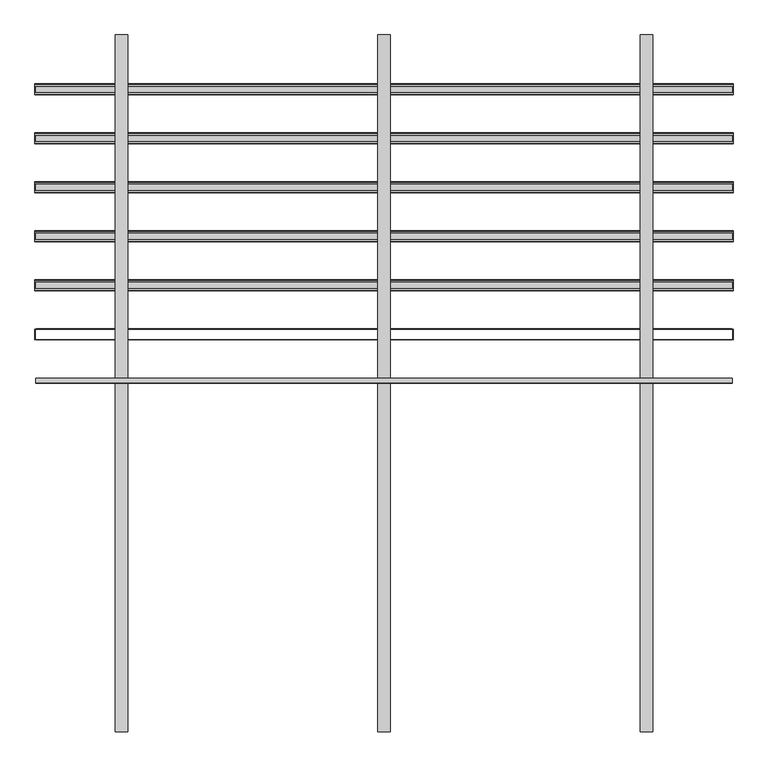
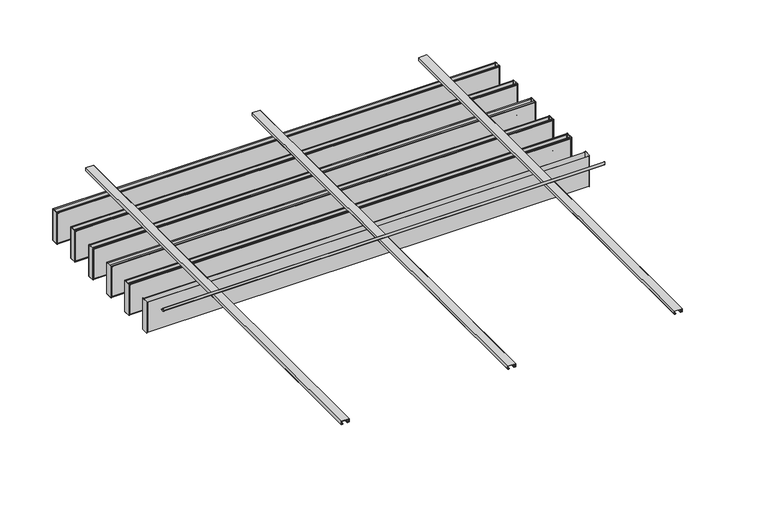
"""IFC4 building model written with IfcOpenShell, lengths in millimetres: proxy geometry, durlum_POLYLAM_KS : durlum_POLYLAM-KS/-S 63."""

from ifc_helpers import new_model, si_unit, point, frame, frame_2d, origin, place, context, project, spatial, polyline, circle_curve, trimmed, segment, composite_curve, outline, extrude, source, transform, mapped, element, save
from ifc_brep_helpers import plane_surface, cylinder_surface, advanced_brep


def generic_models_96af2689(model_context):
    return source(origin(), model_context, "Body", "SolidModel", [
        extrude(outline(polyline([(2027.0, 20.5), (2020.0, 20.5), (2020.0, 35.0), (2050.0, 35.0), (2050.0, -35.0), (2020.0, -35.0), (2020.0, -20.5), (2027.0, -20.5), (2027.0, -22.0), (2021.5, -22.0), (2021.5, -33.5), (2048.5, -33.5), (2048.5, 33.5), (2021.5, 33.5), (2021.5, 22.0), (2027.0, 22.0), (2027.0, 20.5)])), frame((0.0, -1991.5, 0.0), z_axis=(0.0, 1.0, 0.0), x_axis=(0.0, 0.0, 1.0)), (0.0, 0.0, 1.0), 3983.0),
        extrude(outline(polyline([(2027.0, -1479.5), (2020.0, -1479.5), (2020.0, -1465.0), (2050.0, -1465.0), (2050.0, -1535.0), (2020.0, -1535.0), (2020.0, -1520.5), (2027.0, -1520.5), (2027.0, -1522.0), (2021.5, -1522.0), (2021.5, -1533.5), (2048.5, -1533.5), (2048.5, -1466.5), (2021.5, -1466.5), (2021.5, -1478.0), (2027.0, -1478.0), (2027.0, -1479.5)])), frame((0.0, -1991.5, 0.0), z_axis=(0.0, 1.0, 0.0), x_axis=(0.0, 0.0, 1.0)), (0.0, 0.0, 1.0), 3983.0),
        extrude(outline(polyline([(2027.0, 1520.5), (2020.0, 1520.5), (2020.0, 1535.0), (2050.0, 1535.0), (2050.0, 1465.0), (2020.0, 1465.0), (2020.0, 1479.5), (2027.0, 1479.5), (2027.0, 1478.0), (2021.5, 1478.0), (2021.5, 1466.5), (2048.5, 1466.5), (2048.5, 1533.5), (2021.5, 1533.5), (2021.5, 1522.0), (2027.0, 1522.0), (2027.0, 1520.5)])), frame((0.0, -1991.5, 0.0), z_axis=(0.0, 1.0, 0.0), x_axis=(0.0, 0.0, 1.0)), (0.0, 0.0, 1.0), 3983.0),
        extrude(outline(composite_curve([segment(polyline([(2.0, 2079.9), (2.0, 2054.0)]), True, "CONTINUOUS"), segment(trimmed(circle_curve(frame_2d((4.0, 2054.0)), 2.0), [point((2.0, 2054.0))], [point((4.0, 2052.0))], True, "CARTESIAN"), True, "CONTINUOUS"), segment(polyline([(4.0, 2052.0), (29.9, 2052.0), (29.9, 2050.0), (4.0, 2050.0)]), True, "CONTINUOUS"), segment(trimmed(circle_curve(frame_2d((4.0, 2054.0)), 4.0), [point((4.0, 2050.0))], [point((0.0, 2054.0))], False, "CARTESIAN"), True, "CONTINUOUS"), segment(polyline([(0.0, 2054.0), (0.0, 2079.9), (2.0, 2079.9)]), True, "CONTINUOUS")], self_intersect=False)), frame((-1990.0, 0.0, 0.0), z_axis=(1.0, 0.0, 0.0), x_axis=(0.0, 1.0, 0.0)), (0.0, 0.0, 1.0), 3980.0),
        extrude(outline(polyline([(1986.5, 1710.5), (-1986.5, 1710.5), (-1986.5, 1711.5), (1986.5, 1711.5), (1986.5, 1710.5)])), frame((0.0, 0.0, 1699.4), z_axis=(0.0, 0.0, 1.0), x_axis=(1.0, 0.0, 0.0)), (0.0, 0.0, 1.0), 283.0),
        extrude(outline(polyline([(1986.5, 1648.5), (-1986.5, 1648.5), (-1986.5, 1649.5), (1986.5, 1649.5), (1986.5, 1648.5)])), frame((0.0, 0.0, 1699.4), z_axis=(0.0, 0.0, 1.0), x_axis=(1.0, 0.0, 0.0)), (0.0, 0.0, 1.0), 283.0),
        extrude(outline(polyline([(1993.0, 1710.5), (1995.0, 1710.5), (1995.0, 1649.5), (1993.0, 1649.5), (1993.0, 1710.5)])), frame((0.0, 0.0, 1691.9), z_axis=(0.0, 0.0, 1.0), x_axis=(1.0, 0.0, 0.0)), (0.0, 0.0, 1.0), 298.1604454),
        extrude(outline(polyline([(-1995.0, 1710.5), (-1993.0, 1710.5), (-1993.0, 1649.5), (-1995.0, 1649.5), (-1995.0, 1710.5)])), frame((0.0, 0.0, 1691.9), z_axis=(0.0, 0.0, 1.0), x_axis=(1.0, 0.0, 0.0)), (0.0, 0.0, 1.0), 298.1604454),
        advanced_brep(
        [(1995.0, 1709.5, 1990.9), (1995.0, 1699.5, 1990.9), (1995.0, 1699.5, 1990.0604454), (1995.0, 1710.5, 1990.0604454), (1995.0, 1710.5, 1691.9), (1995.0, 1649.5, 1691.9), (1995.0, 1649.5, 1989.8155735), (1995.0, 1660.5, 1989.8155735), (1995.0, 1660.5, 1990.9), (1995.0, 1650.5, 1990.9), (1995.0, 1648.5, 1988.9), (1995.0, 1648.5, 1692.9), (1995.0, 1650.5, 1690.9), (1995.0, 1709.5, 1690.9), (1995.0, 1711.5, 1692.9), (1995.0, 1711.5, 1988.9), (-1995.0, 1709.5, 1990.9), (-1995.0, 1711.5, 1988.9), (-1995.0, 1711.5, 1692.9), (-1995.0, 1709.5, 1690.9), (-1995.0, 1650.5, 1690.9), (-1995.0, 1648.5, 1692.9), (-1995.0, 1648.5, 1988.9), (-1995.0, 1650.5, 1990.9), (-1995.0, 1660.5, 1990.9), (-1995.0, 1660.5, 1989.8155735), (-1995.0, 1649.5, 1989.8155735), (-1995.0, 1649.5, 1691.9), (-1995.0, 1710.5, 1691.9), (-1995.0, 1710.5, 1990.0604454), (-1995.0, 1699.5, 1990.0604454), (-1995.0, 1699.5, 1990.9), (-1986.5, 1710.5, 1982.4), (1986.5, 1710.5, 1982.4), (1986.5, 1710.5, 1699.4), (-1986.5, 1710.5, 1699.4), (1986.5, 1649.5, 1982.4), (-1986.5, 1649.5, 1982.4), (-1986.5, 1649.5, 1699.4), (1986.5, 1649.5, 1699.4), (-1986.5, 1648.5, 1982.4), (1986.5, 1648.5, 1982.4), (1986.5, 1648.5, 1699.4), (-1986.5, 1648.5, 1699.4), (1986.5, 1711.5, 1982.4), (-1986.5, 1711.5, 1982.4), (-1986.5, 1711.5, 1699.4), (1986.5, 1711.5, 1699.4)],
        [
            (0, 1),
            (1, 2),
            (2, 3),
            (3, 4),
            (4, 5),
            (5, 6),
            (6, 7),
            (7, 8),
            (8, 9),
            (9, 10, circle_curve(frame((1995.0, 1650.5, 1988.9), z_axis=(1.0, 0.0, 0.0), x_axis=(0.0, 1.0, 0.0)), 2.0)),
            (10, 11),
            (11, 12, circle_curve(frame((1995.0, 1650.5, 1692.9), z_axis=(1.0, 0.0, 0.0), x_axis=(0.0, 1.0, 0.0)), 2.0)),
            (12, 13),
            (13, 14, circle_curve(frame((1995.0, 1709.5, 1692.9), z_axis=(1.0, 0.0, 0.0), x_axis=(0.0, 1.0, 0.0)), 2.0)),
            (14, 15),
            (15, 0, circle_curve(frame((1995.0, 1709.5, 1988.9), z_axis=(1.0, 0.0, 0.0), x_axis=(0.0, 1.0, 0.0)), 2.0)),
            (16, 17, circle_curve(frame((-1995.0, 1709.5, 1988.9), z_axis=(-1.0, 0.0, 0.0), x_axis=(0.0, 1.0, 0.0)), 2.0)),
            (17, 18),
            (18, 19, circle_curve(frame((-1995.0, 1709.5, 1692.9), z_axis=(-1.0, 0.0, 0.0), x_axis=(0.0, 1.0, 0.0)), 2.0)),
            (19, 20),
            (20, 21, circle_curve(frame((-1995.0, 1650.5, 1692.9), z_axis=(-1.0, 0.0, 0.0), x_axis=(0.0, 1.0, 0.0)), 2.0)),
            (21, 22),
            (22, 23, circle_curve(frame((-1995.0, 1650.5, 1988.9), z_axis=(-1.0, 0.0, 0.0), x_axis=(0.0, 1.0, 0.0)), 2.0)),
            (23, 24),
            (24, 25),
            (25, 26),
            (26, 27),
            (27, 28),
            (28, 29),
            (29, 30),
            (30, 31),
            (31, 16),
            (0, 16),
            (31, 1),
            (30, 2),
            (29, 3),
            (28, 4),
            (32, 33),
            (33, 34),
            (34, 35),
            (35, 32),
            (27, 5),
            (26, 6),
            (36, 37),
            (37, 38),
            (38, 39),
            (39, 36),
            (25, 7),
            (24, 8),
            (23, 9),
            (10, 22),
            (21, 11),
            (40, 41),
            (41, 42),
            (42, 43),
            (43, 40),
            (12, 20),
            (19, 13),
            (14, 18),
            (17, 15),
            (44, 45),
            (45, 46),
            (46, 47),
            (47, 44),
            (44, 33),
            (32, 45),
            (36, 41),
            (40, 37),
            (35, 46),
            (43, 38),
            (34, 47),
            (42, 39),
        ],
        [
            plane_surface(frame((1995.0, 1699.5, 1990.9), z_axis=(1.0, 0.0, 0.0), x_axis=(0.0, -1.0, 0.0))),
            plane_surface(frame((-1995.0, 1699.5, 1990.9), z_axis=(-1.0, 0.0, 0.0), x_axis=(0.0, 1.0, 0.0))),
            plane_surface(frame((1995.0, 1709.5, 1990.9), z_axis=(0.0, 0.0, 1.0), x_axis=(-1.0, 0.0, 0.0))),
            plane_surface(frame((1995.0, 1699.5, 1990.9), z_axis=(0.0, -1.0, 0.0), x_axis=(-1.0, 0.0, 0.0))),
            plane_surface(frame((1995.0, 1699.5, 1990.0604454), z_axis=(0.0, 0.0, -1.0), x_axis=(-1.0, 0.0, 0.0))),
            plane_surface(frame((1995.0, 1710.5, 1990.0604454), z_axis=(0.0, -1.0, 0.0), x_axis=(-1.0, 0.0, 0.0))),
            plane_surface(frame((1995.0, 1710.5, 1691.9), z_axis=(0.0, 0.0, 1.0), x_axis=(-1.0, 0.0, 0.0))),
            plane_surface(frame((1995.0, 1649.5, 1691.9), z_axis=(0.0, 1.0, 0.0), x_axis=(-1.0, 0.0, 0.0))),
            plane_surface(frame((1995.0, 1649.5, 1989.8155735), z_axis=(0.0, 0.0, -1.0), x_axis=(-1.0, 0.0, 0.0))),
            plane_surface(frame((1995.0, 1660.5, 1989.8155735), z_axis=(0.0, 1.0, 0.0), x_axis=(-1.0, 0.0, 0.0))),
            plane_surface(frame((1995.0, 1660.5, 1990.9), z_axis=(0.0, 0.0, 1.0), x_axis=(-1.0, 0.0, 0.0))),
            plane_surface(frame((1995.0, 1648.5, 1988.9), z_axis=(0.0, -1.0, 0.0), x_axis=(-1.0, 0.0, 0.0))),
            plane_surface(frame((1995.0, 1650.5, 1690.9), z_axis=(0.0, 0.0, -1.0), x_axis=(-1.0, 0.0, 0.0))),
            plane_surface(frame((1995.0, 1711.5, 1692.9), z_axis=(0.0, 1.0, 0.0), x_axis=(-1.0, 0.0, 0.0))),
            cylinder_surface(frame((-1995.0, 1650.5, 1988.9), z_axis=(1.0, 0.0, 0.0), x_axis=(0.0, 1.0, 0.0)), 2.0),
            cylinder_surface(frame((-1995.0, 1650.5, 1692.9), z_axis=(1.0, 0.0, 0.0), x_axis=(0.0, 1.0, 0.0)), 2.0),
            cylinder_surface(frame((-1995.0, 1709.5, 1692.9), z_axis=(1.0, 0.0, 0.0), x_axis=(0.0, 1.0, 0.0)), 2.0),
            cylinder_surface(frame((-1995.0, 1709.5, 1988.9), z_axis=(1.0, 0.0, 0.0), x_axis=(0.0, 1.0, 0.0)), 2.0),
            plane_surface(frame((1986.5, 1648.5, 1982.4), z_axis=(0.0, 0.0, -1.0), x_axis=(0.0, 1.0, 0.0))),
            plane_surface(frame((-1986.5, 1648.5, 1982.4), z_axis=(1.0, 0.0, 0.0), x_axis=(0.0, 1.0, 0.0))),
            plane_surface(frame((-1986.5, 1648.5, 1699.4), z_axis=(0.0, 0.0, 1.0), x_axis=(0.0, 1.0, 0.0))),
            plane_surface(frame((1986.5, 1648.5, 1699.4), z_axis=(-1.0, 0.0, 0.0), x_axis=(0.0, 1.0, 0.0))),
        ],
        [
            (0, [[1, 2, 3, 4, 5, 6, 7, 8, 9, 10, 11, 12, 13, 14, 15, 16]]),
            (1, [[17, 18, 19, 20, 21, 22, 23, 24, 25, 26, 27, 28, 29, 30, 31, 32]]),
            (2, [[-1, 33, -32, 34]]),
            (3, [[-2, -34, -31, 35]]),
            (4, [[-3, -35, -30, 36]]),
            (5, [[-4, -36, -29, 37], [38, 39, 40, 41]]),
            (6, [[-5, -37, -28, 42]]),
            (7, [[-6, -42, -27, 43], [44, 45, 46, 47]]),
            (8, [[-7, -43, -26, 48]]),
            (9, [[-8, -48, -25, 49]]),
            (10, [[-9, -49, -24, 50]]),
            (11, [[-11, 51, -22, 52], [53, 54, 55, 56]]),
            (12, [[-13, 57, -20, 58]]),
            (13, [[-15, 59, -18, 60], [61, 62, 63, 64]]),
            (14, [[-10, -50, -23, -51]]),
            (15, [[-12, -52, -21, -57]]),
            (16, [[-14, -58, -19, -59]]),
            (17, [[-16, -60, -17, -33]]),
            (18, [[65, -38, 66, -61]]),
            (18, [[67, -53, 68, -44]]),
            (19, [[-66, -41, 69, -62]]),
            (19, [[-68, -56, 70, -45]]),
            (20, [[-69, -40, 71, -63]]),
            (20, [[-70, -55, 72, -46]]),
            (21, [[-65, -64, -71, -39]]),
            (21, [[-67, -47, -72, -54]]),
        ],
    ),
        extrude(outline(polyline([(1986.5, 1430.5), (-1986.5, 1430.5), (-1986.5, 1431.5), (1986.5, 1431.5), (1986.5, 1430.5)])), frame((0.0, 0.0, 1699.4), z_axis=(0.0, 0.0, 1.0), x_axis=(1.0, 0.0, 0.0)), (0.0, 0.0, 1.0), 283.0),
        extrude(outline(polyline([(1986.5, 1368.5), (-1986.5, 1368.5), (-1986.5, 1369.5), (1986.5, 1369.5), (1986.5, 1368.5)])), frame((0.0, 0.0, 1699.4), z_axis=(0.0, 0.0, 1.0), x_axis=(1.0, 0.0, 0.0)), (0.0, 0.0, 1.0), 283.0),
        extrude(outline(polyline([(1993.0, 1430.5), (1995.0, 1430.5), (1995.0, 1369.5), (1993.0, 1369.5), (1993.0, 1430.5)])), frame((0.0, 0.0, 1691.9), z_axis=(0.0, 0.0, 1.0), x_axis=(1.0, 0.0, 0.0)), (0.0, 0.0, 1.0), 298.1604454),
        extrude(outline(polyline([(-1995.0, 1430.5), (-1993.0, 1430.5), (-1993.0, 1369.5), (-1995.0, 1369.5), (-1995.0, 1430.5)])), frame((0.0, 0.0, 1691.9), z_axis=(0.0, 0.0, 1.0), x_axis=(1.0, 0.0, 0.0)), (0.0, 0.0, 1.0), 298.1604454),
        advanced_brep(
        [(1995.0, 1429.5, 1990.9), (1995.0, 1419.5, 1990.9), (1995.0, 1419.5, 1990.0604454), (1995.0, 1430.5, 1990.0604454), (1995.0, 1430.5, 1691.9), (1995.0, 1369.5, 1691.9), (1995.0, 1369.5, 1989.8155735), (1995.0, 1380.5, 1989.8155735), (1995.0, 1380.5, 1990.9), (1995.0, 1370.5, 1990.9), (1995.0, 1368.5, 1988.9), (1995.0, 1368.5, 1692.9), (1995.0, 1370.5, 1690.9), (1995.0, 1429.5, 1690.9), (1995.0, 1431.5, 1692.9), (1995.0, 1431.5, 1988.9), (-1995.0, 1429.5, 1990.9), (-1995.0, 1431.5, 1988.9), (-1995.0, 1431.5, 1692.9), (-1995.0, 1429.5, 1690.9), (-1995.0, 1370.5, 1690.9), (-1995.0, 1368.5, 1692.9), (-1995.0, 1368.5, 1988.9), (-1995.0, 1370.5, 1990.9), (-1995.0, 1380.5, 1990.9), (-1995.0, 1380.5, 1989.8155735), (-1995.0, 1369.5, 1989.8155735), (-1995.0, 1369.5, 1691.9), (-1995.0, 1430.5, 1691.9), (-1995.0, 1430.5, 1990.0604454), (-1995.0, 1419.5, 1990.0604454), (-1995.0, 1419.5, 1990.9), (-1986.5, 1430.5, 1982.4), (1986.5, 1430.5, 1982.4), (1986.5, 1430.5, 1699.4), (-1986.5, 1430.5, 1699.4), (1986.5, 1369.5, 1982.4), (-1986.5, 1369.5, 1982.4), (-1986.5, 1369.5, 1699.4), (1986.5, 1369.5, 1699.4), (-1986.5, 1368.5, 1982.4), (1986.5, 1368.5, 1982.4), (1986.5, 1368.5, 1699.4), (-1986.5, 1368.5, 1699.4), (1986.5, 1431.5, 1982.4), (-1986.5, 1431.5, 1982.4), (-1986.5, 1431.5, 1699.4), (1986.5, 1431.5, 1699.4)],
        [
            (0, 1),
            (1, 2),
            (2, 3),
            (3, 4),
            (4, 5),
            (5, 6),
            (6, 7),
            (7, 8),
            (8, 9),
            (9, 10, circle_curve(frame((1995.0, 1370.5, 1988.9), z_axis=(1.0, 0.0, 0.0), x_axis=(0.0, 1.0, 0.0)), 2.0)),
            (10, 11),
            (11, 12, circle_curve(frame((1995.0, 1370.5, 1692.9), z_axis=(1.0, 0.0, 0.0), x_axis=(0.0, 1.0, 0.0)), 2.0)),
            (12, 13),
            (13, 14, circle_curve(frame((1995.0, 1429.5, 1692.9), z_axis=(1.0, 0.0, 0.0), x_axis=(0.0, 1.0, 0.0)), 2.0)),
            (14, 15),
            (15, 0, circle_curve(frame((1995.0, 1429.5, 1988.9), z_axis=(1.0, 0.0, 0.0), x_axis=(0.0, 1.0, 0.0)), 2.0)),
            (16, 17, circle_curve(frame((-1995.0, 1429.5, 1988.9), z_axis=(-1.0, 0.0, 0.0), x_axis=(0.0, 1.0, 0.0)), 2.0)),
            (17, 18),
            (18, 19, circle_curve(frame((-1995.0, 1429.5, 1692.9), z_axis=(-1.0, 0.0, 0.0), x_axis=(0.0, 1.0, 0.0)), 2.0)),
            (19, 20),
            (20, 21, circle_curve(frame((-1995.0, 1370.5, 1692.9), z_axis=(-1.0, 0.0, 0.0), x_axis=(0.0, 1.0, 0.0)), 2.0)),
            (21, 22),
            (22, 23, circle_curve(frame((-1995.0, 1370.5, 1988.9), z_axis=(-1.0, 0.0, 0.0), x_axis=(0.0, 1.0, 0.0)), 2.0)),
            (23, 24),
            (24, 25),
            (25, 26),
            (26, 27),
            (27, 28),
            (28, 29),
            (29, 30),
            (30, 31),
            (31, 16),
            (0, 16),
            (31, 1),
            (30, 2),
            (29, 3),
            (28, 4),
            (32, 33),
            (33, 34),
            (34, 35),
            (35, 32),
            (27, 5),
            (26, 6),
            (36, 37),
            (37, 38),
            (38, 39),
            (39, 36),
            (25, 7),
            (24, 8),
            (23, 9),
            (10, 22),
            (21, 11),
            (40, 41),
            (41, 42),
            (42, 43),
            (43, 40),
            (12, 20),
            (19, 13),
            (14, 18),
            (17, 15),
            (44, 45),
            (45, 46),
            (46, 47),
            (47, 44),
            (44, 33),
            (32, 45),
            (36, 41),
            (40, 37),
            (35, 46),
            (43, 38),
            (34, 47),
            (42, 39),
        ],
        [
            plane_surface(frame((1995.0, 1419.5, 1990.9), z_axis=(1.0, 0.0, 0.0), x_axis=(0.0, -1.0, 0.0))),
            plane_surface(frame((-1995.0, 1419.5, 1990.9), z_axis=(-1.0, 0.0, 0.0), x_axis=(0.0, 1.0, 0.0))),
            plane_surface(frame((1995.0, 1429.5, 1990.9), z_axis=(0.0, 0.0, 1.0), x_axis=(-1.0, 0.0, 0.0))),
            plane_surface(frame((1995.0, 1419.5, 1990.9), z_axis=(0.0, -1.0, 0.0), x_axis=(-1.0, 0.0, 0.0))),
            plane_surface(frame((1995.0, 1419.5, 1990.0604454), z_axis=(0.0, 0.0, -1.0), x_axis=(-1.0, 0.0, 0.0))),
            plane_surface(frame((1995.0, 1430.5, 1990.0604454), z_axis=(0.0, -1.0, 0.0), x_axis=(-1.0, 0.0, 0.0))),
            plane_surface(frame((1995.0, 1430.5, 1691.9), z_axis=(0.0, 0.0, 1.0), x_axis=(-1.0, 0.0, 0.0))),
            plane_surface(frame((1995.0, 1369.5, 1691.9), z_axis=(0.0, 1.0, 0.0), x_axis=(-1.0, 0.0, 0.0))),
            plane_surface(frame((1995.0, 1369.5, 1989.8155735), z_axis=(0.0, 0.0, -1.0), x_axis=(-1.0, 0.0, 0.0))),
            plane_surface(frame((1995.0, 1380.5, 1989.8155735), z_axis=(0.0, 1.0, 0.0), x_axis=(-1.0, 0.0, 0.0))),
            plane_surface(frame((1995.0, 1380.5, 1990.9), z_axis=(0.0, 0.0, 1.0), x_axis=(-1.0, 0.0, 0.0))),
            plane_surface(frame((1995.0, 1368.5, 1988.9), z_axis=(0.0, -1.0, 0.0), x_axis=(-1.0, 0.0, 0.0))),
            plane_surface(frame((1995.0, 1370.5, 1690.9), z_axis=(0.0, 0.0, -1.0), x_axis=(-1.0, 0.0, 0.0))),
            plane_surface(frame((1995.0, 1431.5, 1692.9), z_axis=(0.0, 1.0, 0.0), x_axis=(-1.0, 0.0, 0.0))),
            cylinder_surface(frame((-1995.0, 1370.5, 1988.9), z_axis=(1.0, 0.0, 0.0), x_axis=(0.0, 1.0, 0.0)), 2.0),
            cylinder_surface(frame((-1995.0, 1370.5, 1692.9), z_axis=(1.0, 0.0, 0.0), x_axis=(0.0, 1.0, 0.0)), 2.0),
            cylinder_surface(frame((-1995.0, 1429.5, 1692.9), z_axis=(1.0, 0.0, 0.0), x_axis=(0.0, 1.0, 0.0)), 2.0),
            cylinder_surface(frame((-1995.0, 1429.5, 1988.9), z_axis=(1.0, 0.0, 0.0), x_axis=(0.0, 1.0, 0.0)), 2.0),
            plane_surface(frame((1986.5, 1368.5, 1982.4), z_axis=(0.0, 0.0, -1.0), x_axis=(0.0, 1.0, 0.0))),
            plane_surface(frame((-1986.5, 1368.5, 1982.4), z_axis=(1.0, 0.0, 0.0), x_axis=(0.0, 1.0, 0.0))),
            plane_surface(frame((-1986.5, 1368.5, 1699.4), z_axis=(0.0, 0.0, 1.0), x_axis=(0.0, 1.0, 0.0))),
            plane_surface(frame((1986.5, 1368.5, 1699.4), z_axis=(-1.0, 0.0, 0.0), x_axis=(0.0, 1.0, 0.0))),
        ],
        [
            (0, [[1, 2, 3, 4, 5, 6, 7, 8, 9, 10, 11, 12, 13, 14, 15, 16]]),
            (1, [[17, 18, 19, 20, 21, 22, 23, 24, 25, 26, 27, 28, 29, 30, 31, 32]]),
            (2, [[-1, 33, -32, 34]]),
            (3, [[-2, -34, -31, 35]]),
            (4, [[-3, -35, -30, 36]]),
            (5, [[-4, -36, -29, 37], [38, 39, 40, 41]]),
            (6, [[-5, -37, -28, 42]]),
            (7, [[-6, -42, -27, 43], [44, 45, 46, 47]]),
            (8, [[-7, -43, -26, 48]]),
            (9, [[-8, -48, -25, 49]]),
            (10, [[-9, -49, -24, 50]]),
            (11, [[-11, 51, -22, 52], [53, 54, 55, 56]]),
            (12, [[-13, 57, -20, 58]]),
            (13, [[-15, 59, -18, 60], [61, 62, 63, 64]]),
            (14, [[-10, -50, -23, -51]]),
            (15, [[-12, -52, -21, -57]]),
            (16, [[-14, -58, -19, -59]]),
            (17, [[-16, -60, -17, -33]]),
            (18, [[65, -38, 66, -61]]),
            (18, [[67, -53, 68, -44]]),
            (19, [[-66, -41, 69, -62]]),
            (19, [[-68, -56, 70, -45]]),
            (20, [[-69, -40, 71, -63]]),
            (20, [[-70, -55, 72, -46]]),
            (21, [[-65, -64, -71, -39]]),
            (21, [[-67, -47, -72, -54]]),
        ],
    ),
        extrude(outline(polyline([(1986.5, 1150.5), (-1986.5, 1150.5), (-1986.5, 1151.5), (1986.5, 1151.5), (1986.5, 1150.5)])), frame((0.0, 0.0, 1699.4), z_axis=(0.0, 0.0, 1.0), x_axis=(1.0, 0.0, 0.0)), (0.0, 0.0, 1.0), 283.0),
        extrude(outline(polyline([(1986.5, 1088.5), (-1986.5, 1088.5), (-1986.5, 1089.5), (1986.5, 1089.5), (1986.5, 1088.5)])), frame((0.0, 0.0, 1699.4), z_axis=(0.0, 0.0, 1.0), x_axis=(1.0, 0.0, 0.0)), (0.0, 0.0, 1.0), 283.0),
        extrude(outline(polyline([(1993.0, 1150.5), (1995.0, 1150.5), (1995.0, 1089.5), (1993.0, 1089.5), (1993.0, 1150.5)])), frame((0.0, 0.0, 1691.9), z_axis=(0.0, 0.0, 1.0), x_axis=(1.0, 0.0, 0.0)), (0.0, 0.0, 1.0), 298.1604454),
        extrude(outline(polyline([(-1995.0, 1150.5), (-1993.0, 1150.5), (-1993.0, 1089.5), (-1995.0, 1089.5), (-1995.0, 1150.5)])), frame((0.0, 0.0, 1691.9), z_axis=(0.0, 0.0, 1.0), x_axis=(1.0, 0.0, 0.0)), (0.0, 0.0, 1.0), 298.1604454),
        advanced_brep(
        [(1995.0, 1149.5, 1990.9), (1995.0, 1139.5, 1990.9), (1995.0, 1139.5, 1990.0604454), (1995.0, 1150.5, 1990.0604454), (1995.0, 1150.5, 1691.9), (1995.0, 1089.5, 1691.9), (1995.0, 1089.5, 1989.8155735), (1995.0, 1100.5, 1989.8155735), (1995.0, 1100.5, 1990.9), (1995.0, 1090.5, 1990.9), (1995.0, 1088.5, 1988.9), (1995.0, 1088.5, 1692.9), (1995.0, 1090.5, 1690.9), (1995.0, 1149.5, 1690.9), (1995.0, 1151.5, 1692.9), (1995.0, 1151.5, 1988.9), (-1995.0, 1149.5, 1990.9), (-1995.0, 1151.5, 1988.9), (-1995.0, 1151.5, 1692.9), (-1995.0, 1149.5, 1690.9), (-1995.0, 1090.5, 1690.9), (-1995.0, 1088.5, 1692.9), (-1995.0, 1088.5, 1988.9), (-1995.0, 1090.5, 1990.9), (-1995.0, 1100.5, 1990.9), (-1995.0, 1100.5, 1989.8155735), (-1995.0, 1089.5, 1989.8155735), (-1995.0, 1089.5, 1691.9), (-1995.0, 1150.5, 1691.9), (-1995.0, 1150.5, 1990.0604454), (-1995.0, 1139.5, 1990.0604454), (-1995.0, 1139.5, 1990.9), (-1986.5, 1150.5, 1982.4), (1986.5, 1150.5, 1982.4), (1986.5, 1150.5, 1699.4), (-1986.5, 1150.5, 1699.4), (1986.5, 1089.5, 1982.4), (-1986.5, 1089.5, 1982.4), (-1986.5, 1089.5, 1699.4), (1986.5, 1089.5, 1699.4), (-1986.5, 1088.5, 1982.4), (1986.5, 1088.5, 1982.4), (1986.5, 1088.5, 1699.4), (-1986.5, 1088.5, 1699.4), (1986.5, 1151.5, 1982.4), (-1986.5, 1151.5, 1982.4), (-1986.5, 1151.5, 1699.4), (1986.5, 1151.5, 1699.4)],
        [
            (0, 1),
            (1, 2),
            (2, 3),
            (3, 4),
            (4, 5),
            (5, 6),
            (6, 7),
            (7, 8),
            (8, 9),
            (9, 10, circle_curve(frame((1995.0, 1090.5, 1988.9), z_axis=(1.0, 0.0, 0.0), x_axis=(0.0, 1.0, 0.0)), 2.0)),
            (10, 11),
            (11, 12, circle_curve(frame((1995.0, 1090.5, 1692.9), z_axis=(1.0, 0.0, 0.0), x_axis=(0.0, 1.0, 0.0)), 2.0)),
            (12, 13),
            (13, 14, circle_curve(frame((1995.0, 1149.5, 1692.9), z_axis=(1.0, 0.0, 0.0), x_axis=(0.0, 1.0, 0.0)), 2.0)),
            (14, 15),
            (15, 0, circle_curve(frame((1995.0, 1149.5, 1988.9), z_axis=(1.0, 0.0, 0.0), x_axis=(0.0, 1.0, 0.0)), 2.0)),
            (16, 17, circle_curve(frame((-1995.0, 1149.5, 1988.9), z_axis=(-1.0, 0.0, 0.0), x_axis=(0.0, 1.0, 0.0)), 2.0)),
            (17, 18),
            (18, 19, circle_curve(frame((-1995.0, 1149.5, 1692.9), z_axis=(-1.0, 0.0, 0.0), x_axis=(0.0, 1.0, 0.0)), 2.0)),
            (19, 20),
            (20, 21, circle_curve(frame((-1995.0, 1090.5, 1692.9), z_axis=(-1.0, 0.0, 0.0), x_axis=(0.0, 1.0, 0.0)), 2.0)),
            (21, 22),
            (22, 23, circle_curve(frame((-1995.0, 1090.5, 1988.9), z_axis=(-1.0, 0.0, 0.0), x_axis=(0.0, 1.0, 0.0)), 2.0)),
            (23, 24),
            (24, 25),
            (25, 26),
            (26, 27),
            (27, 28),
            (28, 29),
            (29, 30),
            (30, 31),
            (31, 16),
            (0, 16),
            (31, 1),
            (30, 2),
            (29, 3),
            (28, 4),
            (32, 33),
            (33, 34),
            (34, 35),
            (35, 32),
            (27, 5),
            (26, 6),
            (36, 37),
            (37, 38),
            (38, 39),
            (39, 36),
            (25, 7),
            (24, 8),
            (23, 9),
            (10, 22),
            (21, 11),
            (40, 41),
            (41, 42),
            (42, 43),
            (43, 40),
            (12, 20),
            (19, 13),
            (14, 18),
            (17, 15),
            (44, 45),
            (45, 46),
            (46, 47),
            (47, 44),
            (44, 33),
            (32, 45),
            (36, 41),
            (40, 37),
            (35, 46),
            (43, 38),
            (34, 47),
            (42, 39),
        ],
        [
            plane_surface(frame((1995.0, 1139.5, 1990.9), z_axis=(1.0, 0.0, 0.0), x_axis=(0.0, -1.0, 0.0))),
            plane_surface(frame((-1995.0, 1139.5, 1990.9), z_axis=(-1.0, 0.0, 0.0), x_axis=(0.0, 1.0, 0.0))),
            plane_surface(frame((1995.0, 1149.5, 1990.9), z_axis=(0.0, 0.0, 1.0), x_axis=(-1.0, 0.0, 0.0))),
            plane_surface(frame((1995.0, 1139.5, 1990.9), z_axis=(0.0, -1.0, 0.0), x_axis=(-1.0, 0.0, 0.0))),
            plane_surface(frame((1995.0, 1139.5, 1990.0604454), z_axis=(0.0, 0.0, -1.0), x_axis=(-1.0, 0.0, 0.0))),
            plane_surface(frame((1995.0, 1150.5, 1990.0604454), z_axis=(0.0, -1.0, 0.0), x_axis=(-1.0, 0.0, 0.0))),
            plane_surface(frame((1995.0, 1150.5, 1691.9), z_axis=(0.0, 0.0, 1.0), x_axis=(-1.0, 0.0, 0.0))),
            plane_surface(frame((1995.0, 1089.5, 1691.9), z_axis=(0.0, 1.0, 0.0), x_axis=(-1.0, 0.0, 0.0))),
            plane_surface(frame((1995.0, 1089.5, 1989.8155735), z_axis=(0.0, 0.0, -1.0), x_axis=(-1.0, 0.0, 0.0))),
            plane_surface(frame((1995.0, 1100.5, 1989.8155735), z_axis=(0.0, 1.0, 0.0), x_axis=(-1.0, 0.0, 0.0))),
            plane_surface(frame((1995.0, 1100.5, 1990.9), z_axis=(0.0, 0.0, 1.0), x_axis=(-1.0, 0.0, 0.0))),
            plane_surface(frame((1995.0, 1088.5, 1988.9), z_axis=(0.0, -1.0, 0.0), x_axis=(-1.0, 0.0, 0.0))),
            plane_surface(frame((1995.0, 1090.5, 1690.9), z_axis=(0.0, 0.0, -1.0), x_axis=(-1.0, 0.0, 0.0))),
            plane_surface(frame((1995.0, 1151.5, 1692.9), z_axis=(0.0, 1.0, 0.0), x_axis=(-1.0, 0.0, 0.0))),
            cylinder_surface(frame((-1995.0, 1090.5, 1988.9), z_axis=(1.0, 0.0, 0.0), x_axis=(0.0, 1.0, 0.0)), 2.0),
            cylinder_surface(frame((-1995.0, 1090.5, 1692.9), z_axis=(1.0, 0.0, 0.0), x_axis=(0.0, 1.0, 0.0)), 2.0),
            cylinder_surface(frame((-1995.0, 1149.5, 1692.9), z_axis=(1.0, 0.0, 0.0), x_axis=(0.0, 1.0, 0.0)), 2.0),
            cylinder_surface(frame((-1995.0, 1149.5, 1988.9), z_axis=(1.0, 0.0, 0.0), x_axis=(0.0, 1.0, 0.0)), 2.0),
            plane_surface(frame((1986.5, 1088.5, 1982.4), z_axis=(0.0, 0.0, -1.0), x_axis=(0.0, 1.0, 0.0))),
            plane_surface(frame((-1986.5, 1088.5, 1982.4), z_axis=(1.0, 0.0, 0.0), x_axis=(0.0, 1.0, 0.0))),
            plane_surface(frame((-1986.5, 1088.5, 1699.4), z_axis=(0.0, 0.0, 1.0), x_axis=(0.0, 1.0, 0.0))),
            plane_surface(frame((1986.5, 1088.5, 1699.4), z_axis=(-1.0, 0.0, 0.0), x_axis=(0.0, 1.0, 0.0))),
        ],
        [
            (0, [[1, 2, 3, 4, 5, 6, 7, 8, 9, 10, 11, 12, 13, 14, 15, 16]]),
            (1, [[17, 18, 19, 20, 21, 22, 23, 24, 25, 26, 27, 28, 29, 30, 31, 32]]),
            (2, [[-1, 33, -32, 34]]),
            (3, [[-2, -34, -31, 35]]),
            (4, [[-3, -35, -30, 36]]),
            (5, [[-4, -36, -29, 37], [38, 39, 40, 41]]),
            (6, [[-5, -37, -28, 42]]),
            (7, [[-6, -42, -27, 43], [44, 45, 46, 47]]),
            (8, [[-7, -43, -26, 48]]),
            (9, [[-8, -48, -25, 49]]),
            (10, [[-9, -49, -24, 50]]),
            (11, [[-11, 51, -22, 52], [53, 54, 55, 56]]),
            (12, [[-13, 57, -20, 58]]),
            (13, [[-15, 59, -18, 60], [61, 62, 63, 64]]),
            (14, [[-10, -50, -23, -51]]),
            (15, [[-12, -52, -21, -57]]),
            (16, [[-14, -58, -19, -59]]),
            (17, [[-16, -60, -17, -33]]),
            (18, [[65, -38, 66, -61]]),
            (18, [[67, -53, 68, -44]]),
            (19, [[-66, -41, 69, -62]]),
            (19, [[-68, -56, 70, -45]]),
            (20, [[-69, -40, 71, -63]]),
            (20, [[-70, -55, 72, -46]]),
            (21, [[-65, -64, -71, -39]]),
            (21, [[-67, -47, -72, -54]]),
        ],
    ),
        extrude(outline(polyline([(1986.5, 870.5), (-1986.5, 870.5), (-1986.5, 871.5), (1986.5, 871.5), (1986.5, 870.5)])), frame((0.0, 0.0, 1699.4), z_axis=(0.0, 0.0, 1.0), x_axis=(1.0, 0.0, 0.0)), (0.0, 0.0, 1.0), 283.0),
        extrude(outline(polyline([(1986.5, 808.5), (-1986.5, 808.5), (-1986.5, 809.5), (1986.5, 809.5), (1986.5, 808.5)])), frame((0.0, 0.0, 1699.4), z_axis=(0.0, 0.0, 1.0), x_axis=(1.0, 0.0, 0.0)), (0.0, 0.0, 1.0), 283.0),
        extrude(outline(polyline([(1993.0, 870.5), (1995.0, 870.5), (1995.0, 809.5), (1993.0, 809.5), (1993.0, 870.5)])), frame((0.0, 0.0, 1691.9), z_axis=(0.0, 0.0, 1.0), x_axis=(1.0, 0.0, 0.0)), (0.0, 0.0, 1.0), 298.1604454),
        extrude(outline(polyline([(-1995.0, 870.5), (-1993.0, 870.5), (-1993.0, 809.5), (-1995.0, 809.5), (-1995.0, 870.5)])), frame((0.0, 0.0, 1691.9), z_axis=(0.0, 0.0, 1.0), x_axis=(1.0, 0.0, 0.0)), (0.0, 0.0, 1.0), 298.1604454),
        advanced_brep(
        [(1995.0, 869.5, 1990.9), (1995.0, 859.5, 1990.9), (1995.0, 859.5, 1990.0604454), (1995.0, 870.5, 1990.0604454), (1995.0, 870.5, 1691.9), (1995.0, 809.5, 1691.9), (1995.0, 809.5, 1989.8155735), (1995.0, 820.5, 1989.8155735), (1995.0, 820.5, 1990.9), (1995.0, 810.5, 1990.9), (1995.0, 808.5, 1988.9), (1995.0, 808.5, 1692.9), (1995.0, 810.5, 1690.9), (1995.0, 869.5, 1690.9), (1995.0, 871.5, 1692.9), (1995.0, 871.5, 1988.9), (-1995.0, 869.5, 1990.9), (-1995.0, 871.5, 1988.9), (-1995.0, 871.5, 1692.9), (-1995.0, 869.5, 1690.9), (-1995.0, 810.5, 1690.9), (-1995.0, 808.5, 1692.9), (-1995.0, 808.5, 1988.9), (-1995.0, 810.5, 1990.9), (-1995.0, 820.5, 1990.9), (-1995.0, 820.5, 1989.8155735), (-1995.0, 809.5, 1989.8155735), (-1995.0, 809.5, 1691.9), (-1995.0, 870.5, 1691.9), (-1995.0, 870.5, 1990.0604454), (-1995.0, 859.5, 1990.0604454), (-1995.0, 859.5, 1990.9), (-1986.5, 870.5, 1982.4), (1986.5, 870.5, 1982.4), (1986.5, 870.5, 1699.4), (-1986.5, 870.5, 1699.4), (1986.5, 809.5, 1982.4), (-1986.5, 809.5, 1982.4), (-1986.5, 809.5, 1699.4), (1986.5, 809.5, 1699.4), (-1986.5, 808.5, 1982.4), (1986.5, 808.5, 1982.4), (1986.5, 808.5, 1699.4), (-1986.5, 808.5, 1699.4), (1986.5, 871.5, 1982.4), (-1986.5, 871.5, 1982.4), (-1986.5, 871.5, 1699.4), (1986.5, 871.5, 1699.4)],
        [
            (0, 1),
            (1, 2),
            (2, 3),
            (3, 4),
            (4, 5),
            (5, 6),
            (6, 7),
            (7, 8),
            (8, 9),
            (9, 10, circle_curve(frame((1995.0, 810.5, 1988.9), z_axis=(1.0, 0.0, 0.0), x_axis=(0.0, 1.0, 0.0)), 2.0)),
            (10, 11),
            (11, 12, circle_curve(frame((1995.0, 810.5, 1692.9), z_axis=(1.0, 0.0, 0.0), x_axis=(0.0, 1.0, 0.0)), 2.0)),
            (12, 13),
            (13, 14, circle_curve(frame((1995.0, 869.5, 1692.9), z_axis=(1.0, 0.0, 0.0), x_axis=(0.0, 1.0, 0.0)), 2.0)),
            (14, 15),
            (15, 0, circle_curve(frame((1995.0, 869.5, 1988.9), z_axis=(1.0, 0.0, 0.0), x_axis=(0.0, 1.0, 0.0)), 2.0)),
            (16, 17, circle_curve(frame((-1995.0, 869.5, 1988.9), z_axis=(-1.0, 0.0, 0.0), x_axis=(0.0, 1.0, 0.0)), 2.0)),
            (17, 18),
            (18, 19, circle_curve(frame((-1995.0, 869.5, 1692.9), z_axis=(-1.0, 0.0, 0.0), x_axis=(0.0, 1.0, 0.0)), 2.0)),
            (19, 20),
            (20, 21, circle_curve(frame((-1995.0, 810.5, 1692.9), z_axis=(-1.0, 0.0, 0.0), x_axis=(0.0, 1.0, 0.0)), 2.0)),
            (21, 22),
            (22, 23, circle_curve(frame((-1995.0, 810.5, 1988.9), z_axis=(-1.0, 0.0, 0.0), x_axis=(0.0, 1.0, 0.0)), 2.0)),
            (23, 24),
            (24, 25),
            (25, 26),
            (26, 27),
            (27, 28),
            (28, 29),
            (29, 30),
            (30, 31),
            (31, 16),
            (0, 16),
            (31, 1),
            (30, 2),
            (29, 3),
            (28, 4),
            (32, 33),
            (33, 34),
            (34, 35),
            (35, 32),
            (27, 5),
            (26, 6),
            (36, 37),
            (37, 38),
            (38, 39),
            (39, 36),
            (25, 7),
            (24, 8),
            (23, 9),
            (10, 22),
            (21, 11),
            (40, 41),
            (41, 42),
            (42, 43),
            (43, 40),
            (12, 20),
            (19, 13),
            (14, 18),
            (17, 15),
            (44, 45),
            (45, 46),
            (46, 47),
            (47, 44),
            (44, 33),
            (32, 45),
            (36, 41),
            (40, 37),
            (35, 46),
            (43, 38),
            (34, 47),
            (42, 39),
        ],
        [
            plane_surface(frame((1995.0, 859.5, 1990.9), z_axis=(1.0, 0.0, 0.0), x_axis=(0.0, -1.0, 0.0))),
            plane_surface(frame((-1995.0, 859.5, 1990.9), z_axis=(-1.0, 0.0, 0.0), x_axis=(0.0, 1.0, 0.0))),
            plane_surface(frame((1995.0, 869.5, 1990.9), z_axis=(0.0, 0.0, 1.0), x_axis=(-1.0, 0.0, 0.0))),
            plane_surface(frame((1995.0, 859.5, 1990.9), z_axis=(0.0, -1.0, 0.0), x_axis=(-1.0, 0.0, 0.0))),
            plane_surface(frame((1995.0, 859.5, 1990.0604454), z_axis=(0.0, 0.0, -1.0), x_axis=(-1.0, 0.0, 0.0))),
            plane_surface(frame((1995.0, 870.5, 1990.0604454), z_axis=(0.0, -1.0, 0.0), x_axis=(-1.0, 0.0, 0.0))),
            plane_surface(frame((1995.0, 870.5, 1691.9), z_axis=(0.0, 0.0, 1.0), x_axis=(-1.0, 0.0, 0.0))),
            plane_surface(frame((1995.0, 809.5, 1691.9), z_axis=(0.0, 1.0, 0.0), x_axis=(-1.0, 0.0, 0.0))),
            plane_surface(frame((1995.0, 809.5, 1989.8155735), z_axis=(0.0, 0.0, -1.0), x_axis=(-1.0, 0.0, 0.0))),
            plane_surface(frame((1995.0, 820.5, 1989.8155735), z_axis=(0.0, 1.0, 0.0), x_axis=(-1.0, 0.0, 0.0))),
            plane_surface(frame((1995.0, 820.5, 1990.9), z_axis=(0.0, 0.0, 1.0), x_axis=(-1.0, 0.0, 0.0))),
            plane_surface(frame((1995.0, 808.5, 1988.9), z_axis=(0.0, -1.0, 0.0), x_axis=(-1.0, 0.0, 0.0))),
            plane_surface(frame((1995.0, 810.5, 1690.9), z_axis=(0.0, 0.0, -1.0), x_axis=(-1.0, 0.0, 0.0))),
            plane_surface(frame((1995.0, 871.5, 1692.9), z_axis=(0.0, 1.0, 0.0), x_axis=(-1.0, 0.0, 0.0))),
            cylinder_surface(frame((-1995.0, 810.5, 1988.9), z_axis=(1.0, 0.0, 0.0), x_axis=(0.0, 1.0, 0.0)), 2.0),
            cylinder_surface(frame((-1995.0, 810.5, 1692.9), z_axis=(1.0, 0.0, 0.0), x_axis=(0.0, 1.0, 0.0)), 2.0),
            cylinder_surface(frame((-1995.0, 869.5, 1692.9), z_axis=(1.0, 0.0, 0.0), x_axis=(0.0, 1.0, 0.0)), 2.0),
            cylinder_surface(frame((-1995.0, 869.5, 1988.9), z_axis=(1.0, 0.0, 0.0), x_axis=(0.0, 1.0, 0.0)), 2.0),
            plane_surface(frame((1986.5, 808.5, 1982.4), z_axis=(0.0, 0.0, -1.0), x_axis=(0.0, 1.0, 0.0))),
            plane_surface(frame((-1986.5, 808.5, 1982.4), z_axis=(1.0, 0.0, 0.0), x_axis=(0.0, 1.0, 0.0))),
            plane_surface(frame((-1986.5, 808.5, 1699.4), z_axis=(0.0, 0.0, 1.0), x_axis=(0.0, 1.0, 0.0))),
            plane_surface(frame((1986.5, 808.5, 1699.4), z_axis=(-1.0, 0.0, 0.0), x_axis=(0.0, 1.0, 0.0))),
        ],
        [
            (0, [[1, 2, 3, 4, 5, 6, 7, 8, 9, 10, 11, 12, 13, 14, 15, 16]]),
            (1, [[17, 18, 19, 20, 21, 22, 23, 24, 25, 26, 27, 28, 29, 30, 31, 32]]),
            (2, [[-1, 33, -32, 34]]),
            (3, [[-2, -34, -31, 35]]),
            (4, [[-3, -35, -30, 36]]),
            (5, [[-4, -36, -29, 37], [38, 39, 40, 41]]),
            (6, [[-5, -37, -28, 42]]),
            (7, [[-6, -42, -27, 43], [44, 45, 46, 47]]),
            (8, [[-7, -43, -26, 48]]),
            (9, [[-8, -48, -25, 49]]),
            (10, [[-9, -49, -24, 50]]),
            (11, [[-11, 51, -22, 52], [53, 54, 55, 56]]),
            (12, [[-13, 57, -20, 58]]),
            (13, [[-15, 59, -18, 60], [61, 62, 63, 64]]),
            (14, [[-10, -50, -23, -51]]),
            (15, [[-12, -52, -21, -57]]),
            (16, [[-14, -58, -19, -59]]),
            (17, [[-16, -60, -17, -33]]),
            (18, [[65, -38, 66, -61]]),
            (18, [[67, -53, 68, -44]]),
            (19, [[-66, -41, 69, -62]]),
            (19, [[-68, -56, 70, -45]]),
            (20, [[-69, -40, 71, -63]]),
            (20, [[-70, -55, 72, -46]]),
            (21, [[-65, -64, -71, -39]]),
            (21, [[-67, -47, -72, -54]]),
        ],
    ),
        extrude(outline(polyline([(1986.5, 590.5), (-1986.5, 590.5), (-1986.5, 591.5), (1986.5, 591.5), (1986.5, 590.5)])), frame((0.0, 0.0, 1699.4), z_axis=(0.0, 0.0, 1.0), x_axis=(1.0, 0.0, 0.0)), (0.0, 0.0, 1.0), 283.0),
        extrude(outline(polyline([(1986.5, 528.5), (-1986.5, 528.5), (-1986.5, 529.5), (1986.5, 529.5), (1986.5, 528.5)])), frame((0.0, 0.0, 1699.4), z_axis=(0.0, 0.0, 1.0), x_axis=(1.0, 0.0, 0.0)), (0.0, 0.0, 1.0), 283.0),
        extrude(outline(polyline([(1993.0, 590.5), (1995.0, 590.5), (1995.0, 529.5), (1993.0, 529.5), (1993.0, 590.5)])), frame((0.0, 0.0, 1691.9), z_axis=(0.0, 0.0, 1.0), x_axis=(1.0, 0.0, 0.0)), (0.0, 0.0, 1.0), 298.1604454),
        extrude(outline(polyline([(-1995.0, 590.5), (-1993.0, 590.5), (-1993.0, 529.5), (-1995.0, 529.5), (-1995.0, 590.5)])), frame((0.0, 0.0, 1691.9), z_axis=(0.0, 0.0, 1.0), x_axis=(1.0, 0.0, 0.0)), (0.0, 0.0, 1.0), 298.1604454),
        advanced_brep(
        [(1995.0, 589.5, 1990.9), (1995.0, 579.5, 1990.9), (1995.0, 579.5, 1990.0604454), (1995.0, 590.5, 1990.0604454), (1995.0, 590.5, 1691.9), (1995.0, 529.5, 1691.9), (1995.0, 529.5, 1989.8155735), (1995.0, 540.5, 1989.8155735), (1995.0, 540.5, 1990.9), (1995.0, 530.5, 1990.9), (1995.0, 528.5, 1988.9), (1995.0, 528.5, 1692.9), (1995.0, 530.5, 1690.9), (1995.0, 589.5, 1690.9), (1995.0, 591.5, 1692.9), (1995.0, 591.5, 1988.9), (-1995.0, 589.5, 1990.9), (-1995.0, 591.5, 1988.9), (-1995.0, 591.5, 1692.9), (-1995.0, 589.5, 1690.9), (-1995.0, 530.5, 1690.9), (-1995.0, 528.5, 1692.9), (-1995.0, 528.5, 1988.9), (-1995.0, 530.5, 1990.9), (-1995.0, 540.5, 1990.9), (-1995.0, 540.5, 1989.8155735), (-1995.0, 529.5, 1989.8155735), (-1995.0, 529.5, 1691.9), (-1995.0, 590.5, 1691.9), (-1995.0, 590.5, 1990.0604454), (-1995.0, 579.5, 1990.0604454), (-1995.0, 579.5, 1990.9), (-1986.5, 590.5, 1982.4), (1986.5, 590.5, 1982.4), (1986.5, 590.5, 1699.4), (-1986.5, 590.5, 1699.4), (1986.5, 529.5, 1982.4), (-1986.5, 529.5, 1982.4), (-1986.5, 529.5, 1699.4), (1986.5, 529.5, 1699.4), (-1986.5, 528.5, 1982.4), (1986.5, 528.5, 1982.4), (1986.5, 528.5, 1699.4), (-1986.5, 528.5, 1699.4), (1986.5, 591.5, 1982.4), (-1986.5, 591.5, 1982.4), (-1986.5, 591.5, 1699.4), (1986.5, 591.5, 1699.4)],
        [
            (0, 1),
            (1, 2),
            (2, 3),
            (3, 4),
            (4, 5),
            (5, 6),
            (6, 7),
            (7, 8),
            (8, 9),
            (9, 10, circle_curve(frame((1995.0, 530.5, 1988.9), z_axis=(1.0, 0.0, 0.0), x_axis=(0.0, 1.0, 0.0)), 2.0)),
            (10, 11),
            (11, 12, circle_curve(frame((1995.0, 530.5, 1692.9), z_axis=(1.0, 0.0, 0.0), x_axis=(0.0, 1.0, 0.0)), 2.0)),
            (12, 13),
            (13, 14, circle_curve(frame((1995.0, 589.5, 1692.9), z_axis=(1.0, 0.0, 0.0), x_axis=(0.0, 1.0, 0.0)), 2.0)),
            (14, 15),
            (15, 0, circle_curve(frame((1995.0, 589.5, 1988.9), z_axis=(1.0, 0.0, 0.0), x_axis=(0.0, 1.0, 0.0)), 2.0)),
            (16, 17, circle_curve(frame((-1995.0, 589.5, 1988.9), z_axis=(-1.0, 0.0, 0.0), x_axis=(0.0, 1.0, 0.0)), 2.0)),
            (17, 18),
            (18, 19, circle_curve(frame((-1995.0, 589.5, 1692.9), z_axis=(-1.0, 0.0, 0.0), x_axis=(0.0, 1.0, 0.0)), 2.0)),
            (19, 20),
            (20, 21, circle_curve(frame((-1995.0, 530.5, 1692.9), z_axis=(-1.0, 0.0, 0.0), x_axis=(0.0, 1.0, 0.0)), 2.0)),
            (21, 22),
            (22, 23, circle_curve(frame((-1995.0, 530.5, 1988.9), z_axis=(-1.0, 0.0, 0.0), x_axis=(0.0, 1.0, 0.0)), 2.0)),
            (23, 24),
            (24, 25),
            (25, 26),
            (26, 27),
            (27, 28),
            (28, 29),
            (29, 30),
            (30, 31),
            (31, 16),
            (0, 16),
            (31, 1),
            (30, 2),
            (29, 3),
            (28, 4),
            (32, 33),
            (33, 34),
            (34, 35),
            (35, 32),
            (27, 5),
            (26, 6),
            (36, 37),
            (37, 38),
            (38, 39),
            (39, 36),
            (25, 7),
            (24, 8),
            (23, 9),
            (10, 22),
            (21, 11),
            (40, 41),
            (41, 42),
            (42, 43),
            (43, 40),
            (12, 20),
            (19, 13),
            (14, 18),
            (17, 15),
            (44, 45),
            (45, 46),
            (46, 47),
            (47, 44),
            (44, 33),
            (32, 45),
            (36, 41),
            (40, 37),
            (35, 46),
            (43, 38),
            (34, 47),
            (42, 39),
        ],
        [
            plane_surface(frame((1995.0, 579.5, 1990.9), z_axis=(1.0, 0.0, 0.0), x_axis=(0.0, -1.0, 0.0))),
            plane_surface(frame((-1995.0, 579.5, 1990.9), z_axis=(-1.0, 0.0, 0.0), x_axis=(0.0, 1.0, 0.0))),
            plane_surface(frame((1995.0, 589.5, 1990.9), z_axis=(0.0, 0.0, 1.0), x_axis=(-1.0, 0.0, 0.0))),
            plane_surface(frame((1995.0, 579.5, 1990.9), z_axis=(0.0, -1.0, 0.0), x_axis=(-1.0, 0.0, 0.0))),
            plane_surface(frame((1995.0, 579.5, 1990.0604454), z_axis=(0.0, 0.0, -1.0), x_axis=(-1.0, 0.0, 0.0))),
            plane_surface(frame((1995.0, 590.5, 1990.0604454), z_axis=(0.0, -1.0, 0.0), x_axis=(-1.0, 0.0, 0.0))),
            plane_surface(frame((1995.0, 590.5, 1691.9), z_axis=(0.0, 0.0, 1.0), x_axis=(-1.0, 0.0, 0.0))),
            plane_surface(frame((1995.0, 529.5, 1691.9), z_axis=(0.0, 1.0, 0.0), x_axis=(-1.0, 0.0, 0.0))),
            plane_surface(frame((1995.0, 529.5, 1989.8155735), z_axis=(0.0, 0.0, -1.0), x_axis=(-1.0, 0.0, 0.0))),
            plane_surface(frame((1995.0, 540.5, 1989.8155735), z_axis=(0.0, 1.0, 0.0), x_axis=(-1.0, 0.0, 0.0))),
            plane_surface(frame((1995.0, 540.5, 1990.9), z_axis=(0.0, 0.0, 1.0), x_axis=(-1.0, 0.0, 0.0))),
            plane_surface(frame((1995.0, 528.5, 1988.9), z_axis=(0.0, -1.0, 0.0), x_axis=(-1.0, 0.0, 0.0))),
            plane_surface(frame((1995.0, 530.5, 1690.9), z_axis=(0.0, 0.0, -1.0), x_axis=(-1.0, 0.0, 0.0))),
            plane_surface(frame((1995.0, 591.5, 1692.9), z_axis=(0.0, 1.0, 0.0), x_axis=(-1.0, 0.0, 0.0))),
            cylinder_surface(frame((-1995.0, 530.5, 1988.9), z_axis=(1.0, 0.0, 0.0), x_axis=(0.0, 1.0, 0.0)), 2.0),
            cylinder_surface(frame((-1995.0, 530.5, 1692.9), z_axis=(1.0, 0.0, 0.0), x_axis=(0.0, 1.0, 0.0)), 2.0),
            cylinder_surface(frame((-1995.0, 589.5, 1692.9), z_axis=(1.0, 0.0, 0.0), x_axis=(0.0, 1.0, 0.0)), 2.0),
            cylinder_surface(frame((-1995.0, 589.5, 1988.9), z_axis=(1.0, 0.0, 0.0), x_axis=(0.0, 1.0, 0.0)), 2.0),
            plane_surface(frame((1986.5, 528.5, 1982.4), z_axis=(0.0, 0.0, -1.0), x_axis=(0.0, 1.0, 0.0))),
            plane_surface(frame((-1986.5, 528.5, 1982.4), z_axis=(1.0, 0.0, 0.0), x_axis=(0.0, 1.0, 0.0))),
            plane_surface(frame((-1986.5, 528.5, 1699.4), z_axis=(0.0, 0.0, 1.0), x_axis=(0.0, 1.0, 0.0))),
            plane_surface(frame((1986.5, 528.5, 1699.4), z_axis=(-1.0, 0.0, 0.0), x_axis=(0.0, 1.0, 0.0))),
        ],
        [
            (0, [[1, 2, 3, 4, 5, 6, 7, 8, 9, 10, 11, 12, 13, 14, 15, 16]]),
            (1, [[17, 18, 19, 20, 21, 22, 23, 24, 25, 26, 27, 28, 29, 30, 31, 32]]),
            (2, [[-1, 33, -32, 34]]),
            (3, [[-2, -34, -31, 35]]),
            (4, [[-3, -35, -30, 36]]),
            (5, [[-4, -36, -29, 37], [38, 39, 40, 41]]),
            (6, [[-5, -37, -28, 42]]),
            (7, [[-6, -42, -27, 43], [44, 45, 46, 47]]),
            (8, [[-7, -43, -26, 48]]),
            (9, [[-8, -48, -25, 49]]),
            (10, [[-9, -49, -24, 50]]),
            (11, [[-11, 51, -22, 52], [53, 54, 55, 56]]),
            (12, [[-13, 57, -20, 58]]),
            (13, [[-15, 59, -18, 60], [61, 62, 63, 64]]),
            (14, [[-10, -50, -23, -51]]),
            (15, [[-12, -52, -21, -57]]),
            (16, [[-14, -58, -19, -59]]),
            (17, [[-16, -60, -17, -33]]),
            (18, [[65, -38, 66, -61]]),
            (18, [[67, -53, 68, -44]]),
            (19, [[-66, -41, 69, -62]]),
            (19, [[-68, -56, 70, -45]]),
            (20, [[-69, -40, 71, -63]]),
            (20, [[-70, -55, 72, -46]]),
            (21, [[-65, -64, -71, -39]]),
            (21, [[-67, -47, -72, -54]]),
        ],
    ),
        extrude(outline(polyline([(1986.5, 310.5), (-1986.5, 310.5), (-1986.5, 311.5), (1986.5, 311.5), (1986.5, 310.5)])), frame((0.0, 0.0, 1699.4), z_axis=(0.0, 0.0, 1.0), x_axis=(1.0, 0.0, 0.0)), (0.0, 0.0, 1.0), 283.0),
        extrude(outline(polyline([(1986.5, 248.5), (-1986.5, 248.5), (-1986.5, 249.5), (1986.5, 249.5), (1986.5, 248.5)])), frame((0.0, 0.0, 1699.4), z_axis=(0.0, 0.0, 1.0), x_axis=(1.0, 0.0, 0.0)), (0.0, 0.0, 1.0), 283.0),
        extrude(outline(polyline([(1993.0, 310.5), (1995.0, 310.5), (1995.0, 249.5), (1993.0, 249.5), (1993.0, 310.5)])), frame((0.0, 0.0, 1691.9), z_axis=(0.0, 0.0, 1.0), x_axis=(1.0, 0.0, 0.0)), (0.0, 0.0, 1.0), 298.1604454),
        extrude(outline(polyline([(-1995.0, 310.5), (-1993.0, 310.5), (-1993.0, 249.5), (-1995.0, 249.5), (-1995.0, 310.5)])), frame((0.0, 0.0, 1691.9), z_axis=(0.0, 0.0, 1.0), x_axis=(1.0, 0.0, 0.0)), (0.0, 0.0, 1.0), 298.1604454),
    ])


if __name__ == "__main__":
    model = new_model("IFC4")
    model_context = context("Model", 3, world=origin())
    ifc_project = project(units=[si_unit("LENGTHUNIT", "METRE", prefix="MILLI")], contexts=[model_context])
    site = spatial("IfcSite", under=ifc_project)
    building = spatial("IfcBuilding", under=site)
    placement = place(None, origin())
    generic_models_shape = generic_models_96af2689(model_context)
    element("IfcBuildingElementProxy", 1, Name="durlum_POLYLAM_KS : durlum_POLYLAM-KS/-S 63", ObjectType="durlum_POLYLAM_KS : durlum_POLYLAM-KS/-S 63", at=placement, inside=building, context=model_context, shape_type="MappedRepresentation", body=[
        mapped(generic_models_shape, transform((0.0, 0.0, 0.0), x_axis=(1.0, 0.0, 0.0), y_axis=(0.0, 1.0, 0.0), z_axis=(0.0, 0.0, 1.0))),
    ])
    save(model, "model.ifc")
